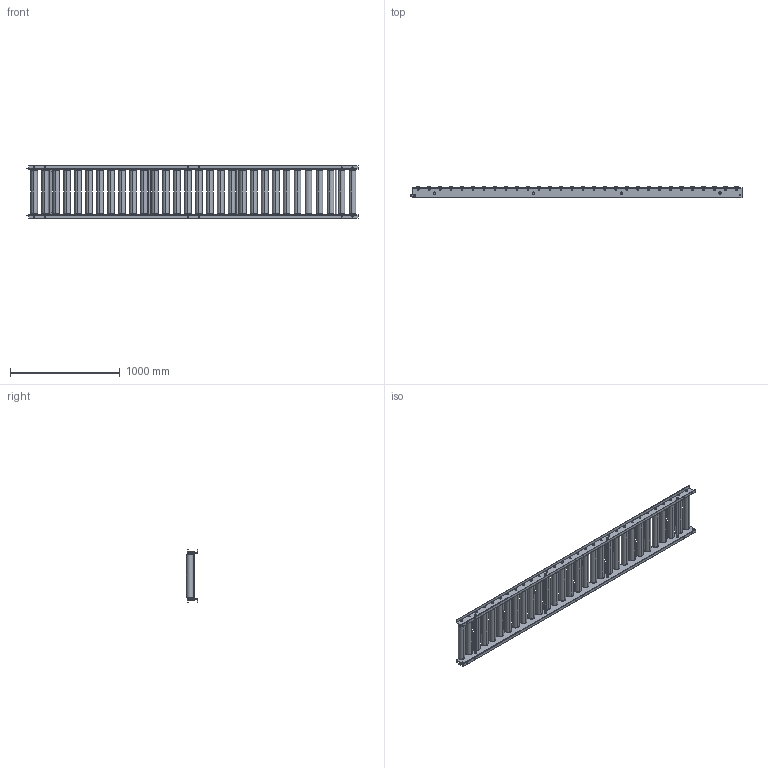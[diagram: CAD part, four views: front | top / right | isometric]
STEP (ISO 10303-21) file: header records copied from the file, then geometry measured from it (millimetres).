
FILE_DESCRIPTION (( 'STEP AP203' ), '1' );
FILE_NAME ('R-6023D.step', '2024-02-20T08:17:44', ( '' ), ( '' ), 'SwSTEP 2.0', 'SolidWorks 2023', '' );
FILE_SCHEMA (( 'CONFIG_CONTROL_DESIGN' ));
Length unit declared in the file: millimetre
Products named in the file (1): R-6023D
Bounding box: 3025 x 101.75 x 475 mm (x, y, z)
Volume: 36662313.6 mm3; surface area: 5982675.3 mm2
Topology: 84 solids, 84 shells, 1280 faces, 2932 edges, 1888 vertices
Faces by surface type: cylinder 622, plane 490, torus 120, cone 48
Entity records: 37571 total; most frequent: DIRECTION 7018, CARTESIAN_POINT 6773, ORIENTED_EDGE 5864, AXIS2_PLACEMENT_3D 2933, EDGE_CURVE 2932, VERTEX_POINT 1888, EDGE_LOOP 1652, CIRCLE 1652
